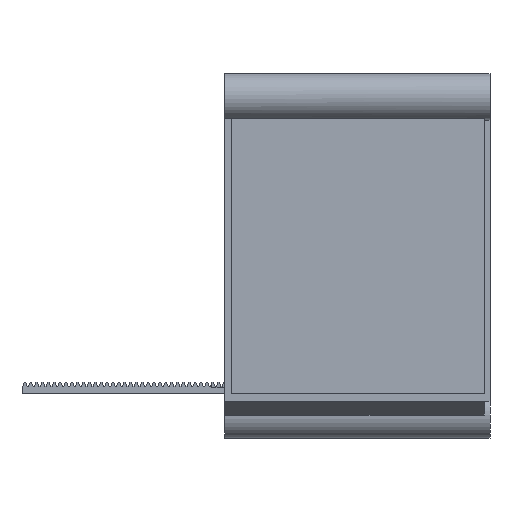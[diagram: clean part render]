
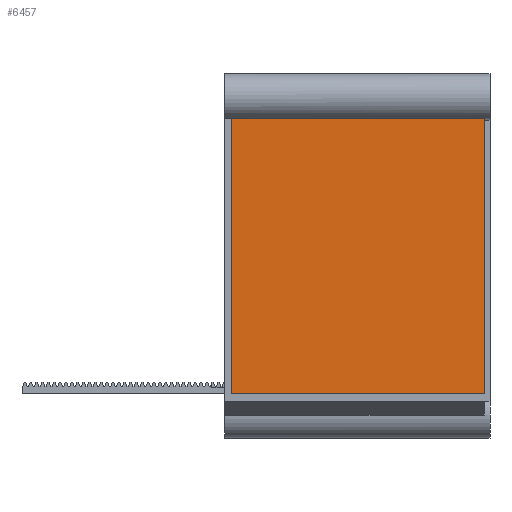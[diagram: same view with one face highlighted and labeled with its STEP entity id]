
A CAD part, front view. The second image highlights one B-rep face of the part: STEP entity #6457.
In plain terms, the highlighted planar face has unit normal (0, -1, 0).
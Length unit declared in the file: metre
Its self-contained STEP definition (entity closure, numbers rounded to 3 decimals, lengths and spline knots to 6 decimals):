
#495=ORIENTED_EDGE('',*,*,#2411,.F.);
#496=ORIENTED_EDGE('',*,*,#2412,.T.);
#497=ORIENTED_EDGE('',*,*,#2413,.T.);
#498=ORIENTED_EDGE('',*,*,#2414,.F.);
#499=ORIENTED_EDGE('',*,*,#2415,.F.);
#500=ORIENTED_EDGE('',*,*,#2416,.F.);
#501=ORIENTED_EDGE('',*,*,#2417,.F.);
#502=ORIENTED_EDGE('',*,*,#2418,.T.);
#503=ORIENTED_EDGE('',*,*,#2419,.T.);
#504=ORIENTED_EDGE('',*,*,#2420,.F.);
#2411=EDGE_CURVE('',#3367,#3368,#4013,.T.);
#2412=EDGE_CURVE('',#3367,#3369,#4014,.T.);
#2413=EDGE_CURVE('',#3369,#3370,#4015,.T.);
#2414=EDGE_CURVE('',#3368,#3370,#4016,.T.);
#2415=EDGE_CURVE('',#3371,#3372,#4017,.T.);
#2416=EDGE_CURVE('',#3373,#3371,#4018,.T.);
#2417=EDGE_CURVE('',#3374,#3373,#4019,.T.);
#2418=EDGE_CURVE('',#3374,#3375,#4020,.T.);
#2419=EDGE_CURVE('',#3375,#3376,#4021,.T.);
#2420=EDGE_CURVE('',#3372,#3376,#4022,.T.);
#3367=VERTEX_POINT('',#9665);
#3368=VERTEX_POINT('',#9666);
#3369=VERTEX_POINT('',#9668);
#3370=VERTEX_POINT('',#9670);
#3371=VERTEX_POINT('',#9673);
#3372=VERTEX_POINT('',#9674);
#3373=VERTEX_POINT('',#9676);
#3374=VERTEX_POINT('',#9678);
#3375=VERTEX_POINT('',#9680);
#3376=VERTEX_POINT('',#9682);
#4013=LINE('',#9664,#4966);
#4014=LINE('',#9667,#4967);
#4015=LINE('',#9669,#4968);
#4016=LINE('',#9671,#4969);
#4017=LINE('',#9672,#4970);
#4018=LINE('',#9675,#4971);
#4019=LINE('',#9677,#4972);
#4020=LINE('',#9679,#4973);
#4021=LINE('',#9681,#4974);
#4022=LINE('',#9683,#4975);
#4966=VECTOR('',#7604,1.);
#4967=VECTOR('',#7605,1.);
#4968=VECTOR('',#7606,1.);
#4969=VECTOR('',#7607,1.);
#4970=VECTOR('',#7608,1.);
#4971=VECTOR('',#7609,1.);
#4972=VECTOR('',#7610,1.);
#4973=VECTOR('',#7611,1.);
#4974=VECTOR('',#7612,1.);
#4975=VECTOR('',#7613,1.);
#5475=EDGE_LOOP('',(#495,#496,#497,#498));
#5476=EDGE_LOOP('',(#499,#500,#501,#502,#503,#504));
#5807=FACE_BOUND('',#5475,.T.);
#5808=FACE_BOUND('',#5476,.T.);
#6137=PLANE('',#6798);
#6457=ADVANCED_FACE('',(#5807,#5808),#6137,.F.);
#6798=AXIS2_PLACEMENT_3D('',#9663,#7602,#7603);
#7602=DIRECTION('',(0.,1.,0.));
#7603=DIRECTION('',(-1.,0.,0.));
#7604=DIRECTION('',(0.,0.,1.));
#7605=DIRECTION('',(-1.,0.,0.));
#7606=DIRECTION('',(0.,0.,1.));
#7607=DIRECTION('',(-1.,0.,0.));
#7608=DIRECTION('',(0.,0.,1.));
#7609=DIRECTION('',(-1.,0.,0.));
#7610=DIRECTION('',(0.,0.,-1.));
#7611=DIRECTION('',(-1.,0.,0.));
#7612=DIRECTION('',(0.,0.,-1.));
#7613=DIRECTION('',(1.,0.,0.));
#9663=CARTESIAN_POINT('',(0.05684,-0.008,-0.030512));
#9664=CARTESIAN_POINT('',(0.04792,-0.008,-0.030512));
#9665=CARTESIAN_POINT('',(0.04792,-0.008,0.031905));
#9666=CARTESIAN_POINT('',(0.04792,-0.008,0.032905));
#9667=CARTESIAN_POINT('',(0.05684,-0.008,0.031905));
#9668=CARTESIAN_POINT('',(0.00792,-0.008,0.031905));
#9669=CARTESIAN_POINT('',(0.00792,-0.008,-0.030512));
#9670=CARTESIAN_POINT('',(0.00792,-0.008,0.032905));
#9671=CARTESIAN_POINT('',(0.05684,-0.008,0.032905));
#9672=CARTESIAN_POINT('',(0.0014,-0.008,0.002459));
#9673=CARTESIAN_POINT('',(0.0014,-0.008,-0.027051));
#9674=CARTESIAN_POINT('',(0.0014,-0.008,0.031969));
#9675=CARTESIAN_POINT('',(0.05684,-0.008,-0.027051));
#9676=CARTESIAN_POINT('',(0.05564,-0.008,-0.027051));
#9677=CARTESIAN_POINT('',(0.05564,-0.008,-0.030512));
#9678=CARTESIAN_POINT('',(0.05564,-0.008,0.033479));
#9679=CARTESIAN_POINT('',(0.0585,-0.008,0.033479));
#9680=CARTESIAN_POINT('',(0.00291,-0.008,0.033479));
#9681=CARTESIAN_POINT('',(0.00291,-0.008,0.032724));
#9682=CARTESIAN_POINT('',(0.00291,-0.008,0.031969));
#9683=CARTESIAN_POINT('',(0.002155,-0.008,0.031969));
